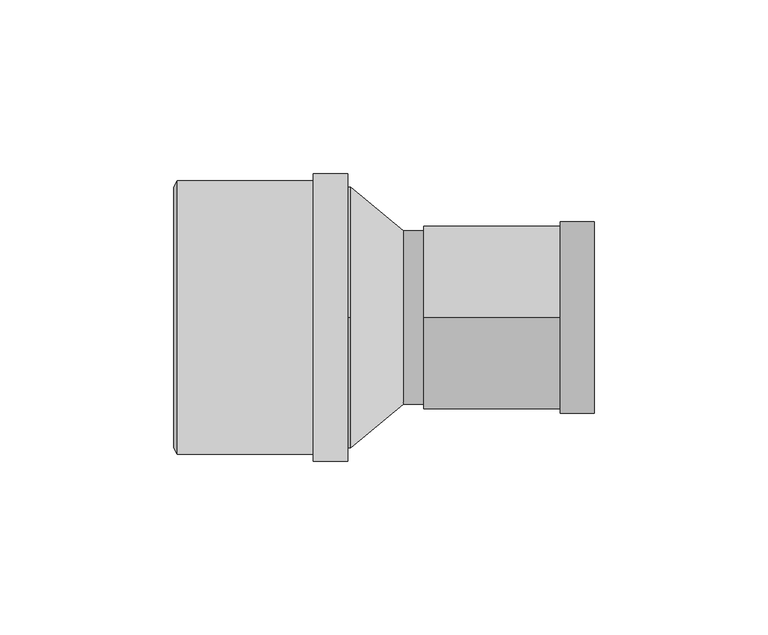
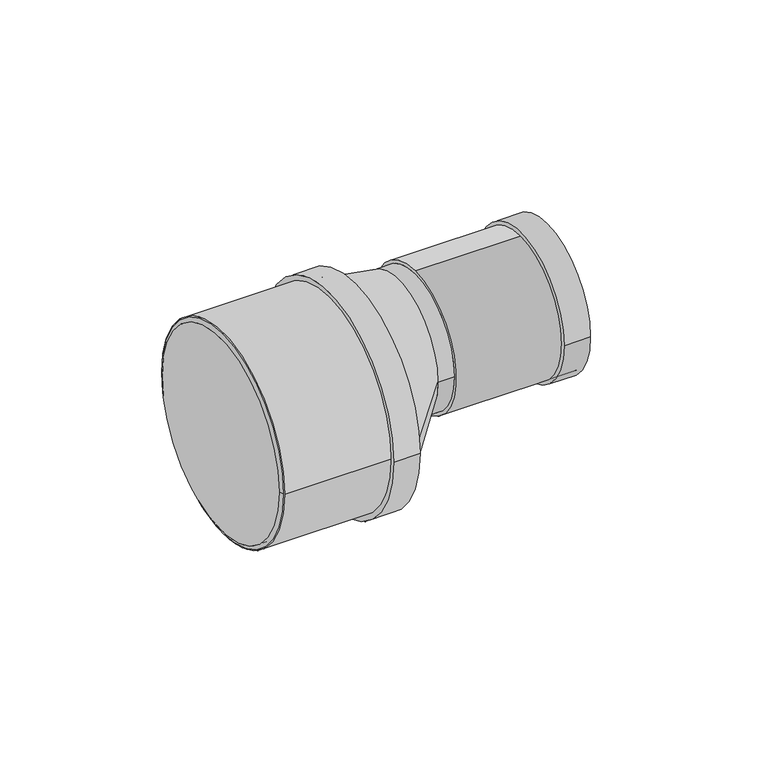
"""IFC4 building model written with IfcOpenShell, lengths in millimetres: pipe fitting geometry, Superdrain HTR-Reducer : Superdrain HTR-Reducer."""

from ifc_helpers import new_model, si_unit, point, frame, frame_2d, origin, origin_2d, place, context, project, spatial, polyline, circle_curve, trimmed, segment, composite_curve, outline, extrude, source, transform, mapped, element, save
from ifc_brep_helpers import plane_surface, revolved_surface, spline_surface, advanced_brep


def pipe_fitting_04622c49(model_context):
    return source(origin(), model_context, "Body", "SolidModel", [
        extrude(outline(composite_curve([segment(trimmed(circle_curve(frame_2d((0.0, 0.1450234)), 39.375), [point((39.375, 0.1450234))], [point((-39.375, 0.1450234))], False, "CARTESIAN"), True, "CONTINUOUS"), segment(trimmed(circle_curve(frame_2d((0.0, 0.1450234)), 39.375), [point((-39.375, 0.1450234))], [point((39.375, 0.1450234))], False, "CARTESIAN"), True, "CONTINUOUS")], self_intersect=False), holes=[composite_curve([segment(trimmed(circle_curve(frame_2d((0.0, 0.1450234)), 37.5), [point((37.5, 0.1450234))], [point((-37.5, 0.1450234))], True, "CARTESIAN"), True, "CONTINUOUS"), segment(trimmed(circle_curve(frame_2d((0.0, 0.1450234)), 37.5), [point((-37.5, 0.1450234))], [point((37.5, 0.1450234))], True, "CARTESIAN"), True, "CONTINUOUS")], self_intersect=False)]), frame((-50.0, 0.0, 0.0), z_axis=(1.0, 0.0, 0.0), x_axis=(0.0, 1.0, 0.0)), (0.0, 0.0, 1.0), 49.0),
        extrude(outline(composite_curve([segment(trimmed(circle_curve(frame_2d((0.0, 0.1450234)), 41.34375), [point((41.34375, 0.1450234))], [point((-41.34375, 0.1450234))], False, "CARTESIAN"), True, "CONTINUOUS"), segment(trimmed(circle_curve(frame_2d((0.0, 0.1450234)), 41.34375), [point((-41.34375, 0.1450234))], [point((41.34375, 0.1450234))], False, "CARTESIAN"), True, "CONTINUOUS")], self_intersect=False), holes=[composite_curve([segment(trimmed(circle_curve(frame_2d((0.0, 0.1450234)), 37.5), [point((37.5, 0.1450234))], [point((-37.5, 0.1450234))], True, "CARTESIAN"), True, "CONTINUOUS"), segment(trimmed(circle_curve(frame_2d((0.0, 0.1450234)), 37.5), [point((-37.5, 0.1450234))], [point((37.5, 0.1450234))], True, "CARTESIAN"), True, "CONTINUOUS")], self_intersect=False)]), frame((-10.8, 0.0, 0.0), z_axis=(1.0, 0.0, 0.0), x_axis=(0.0, 1.0, 0.0)), (0.0, 0.0, 1.0), 9.8),
        advanced_brep(
        [(-51.0, 37.5, 0.1450234), (-51.0, -37.5, 0.1450234), (-50.0, 39.375, 0.1450234), (-50.0, -39.375, 0.1450234)],
        [
            (0, 1, circle_curve(frame((-51.0, 0.0, 0.1450234), z_axis=(-1.0, 0.0, 0.0), x_axis=(0.0, 1.0, 0.0)), 37.5)),
            (1, 0, circle_curve(frame((-51.0, 0.0, 0.1450234), z_axis=(-1.0, 0.0, 0.0), x_axis=(0.0, -1.0, 0.0)), 37.5)),
            (2, 3, circle_curve(frame((-50.0, 0.0, 0.1450234), z_axis=(1.0, 0.0, 0.0), x_axis=(0.0, -1.0, 0.0)), 39.375)),
            (3, 2, circle_curve(frame((-50.0, 0.0, 0.1450234), z_axis=(1.0, 0.0, 0.0), x_axis=(0.0, 1.0, 0.0)), 39.375)),
            (3, 1),
            (0, 2),
        ],
        [
            plane_surface(frame((-51.0, 0.0, 0.1450234), z_axis=(-1.0, 0.0, 0.0), x_axis=(0.0, 0.0, -1.0))),
            plane_surface(frame((-50.0, 0.0, 0.1450234), z_axis=(1.0, 0.0, 0.0), x_axis=(0.0, 0.0, -1.0))),
            revolved_surface(polyline([(-51.0, 37.5, 0.1450234), (-50.0, 39.375, 0.1450234)]), (-71.0, 0.0, 0.1450234), (1.0, 0.0, 0.0)),
            revolved_surface(polyline([(-51.0, -37.5, 0.1450234), (-50.0, -39.375, 0.1450234)]), (-71.0, 0.0, 0.1450234), (1.0, 0.0, 0.0)),
        ],
        [
            (0, [[1, 2]]),
            (1, [[3, 4]]),
            (2, [[-4, 5, -1, 6]]),
            (3, [[-3, -6, -2, -5]]),
        ],
    ),
        advanced_brep(
        [(15.0, -25.0, 12.5), (15.0, 25.0, 12.5), (0.0, -37.5, 0.0), (0.0, 37.5, 0.0)],
        [
            (0, 1, circle_curve(frame((15.0, 0.0, 12.5), z_axis=(1.0, 0.0, 0.0), x_axis=(0.0, 1.0, 0.0)), 25.0)),
            (1, 0, circle_curve(frame((15.0, 0.0, 12.5), z_axis=(1.0, 0.0, 0.0), x_axis=(0.0, 1.0, 0.0)), 25.0)),
            (2, 3, circle_curve(frame((0.0, 0.0, 0.0), z_axis=(-1.0, 0.0, 0.0), x_axis=(0.0, 1.0, 0.0)), 37.5)),
            (3, 2, circle_curve(frame((0.0, 0.0, 0.0), z_axis=(-1.0, 0.0, 0.0), x_axis=(0.0, 1.0, 0.0)), 37.5)),
            (3, 1),
            (0, 2),
        ],
        [
            plane_surface(frame((15.0, 0.0, 12.5), z_axis=(1.0, 0.0, 0.0), x_axis=(0.0, 0.0, -1.0))),
            plane_surface(frame((0.0, 0.0, 0.0), z_axis=(-1.0, 0.0, 0.0), x_axis=(0.0, 0.0, -1.0))),
            spline_surface(2, 1, [[(0.0, -37.5, 0.0), (15.0, -25.0, 12.5)], [(0.0, -37.5, -37.5), (15.0, -25.0, -12.5)], [(0.0, 0.0, -37.5), (15.0, 0.0, -12.5)], [(0.0, 37.5, -37.5), (15.0, 25.0, -12.5)], [(0.0, 37.5, 0.0), (15.0, 25.0, 12.5)]], [3, 2, 3], [2, 2], [0.0, 1.0, 2.0], [0.0, 1.0], weights=[[1.0, 1.0], [0.7071067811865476, 0.7071067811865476], [1.0, 1.0], [0.7071067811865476, 0.7071067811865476], [1.0, 1.0]]),
            spline_surface(2, 1, [[(0.0, 37.5, 0.0), (15.0, 25.0, 12.5)], [(0.0, 37.5, 37.5), (15.0, 25.0, 37.5)], [(0.0, 0.0, 37.5), (15.0, 0.0, 37.5)], [(0.0, -37.5, 37.5), (15.0, -25.0, 37.5)], [(0.0, -37.5, 0.0), (15.0, -25.0, 12.5)]], [3, 2, 3], [2, 2], [0.0, 1.0, 2.0], [0.0, 1.0], weights=[[1.0, 1.0], [0.7071067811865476, 0.7071067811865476], [1.0, 1.0], [0.7071067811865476, 0.7071067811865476], [1.0, 1.0]]),
        ],
        [
            (0, [[1, 2]]),
            (1, [[3, 4]]),
            (2, [[-4, 5, -1, 6]]),
            (3, [[-3, -6, -2, -5]]),
        ],
    ),
        extrude(outline(composite_curve([segment(trimmed(circle_curve(frame_2d((0.0, 12.5)), 25.0), [point((-25.0, 12.5))], [point((25.0, 12.5))], False, "CARTESIAN"), True, "CONTINUOUS"), segment(trimmed(circle_curve(frame_2d((0.0, 12.5)), 25.0), [point((25.0, 12.5))], [point((-25.0, 12.5))], False, "CARTESIAN"), True, "CONTINUOUS")], self_intersect=False)), frame((15.0, 0.0, 0.0), z_axis=(1.0, 0.0, 0.0), x_axis=(0.0, 1.0, 0.0)), (0.0, 0.0, 1.0), 6.0),
        extrude(outline(composite_curve([segment(trimmed(circle_curve(frame_2d((0.0, 12.5)), 27.5625), [point((-27.5625, 12.5))], [point((27.5625, 12.5))], False, "CARTESIAN"), True, "CONTINUOUS"), segment(trimmed(circle_curve(frame_2d((0.0, 12.5)), 27.5625), [point((27.5625, 12.5))], [point((-27.5625, 12.5))], False, "CARTESIAN"), True, "CONTINUOUS")], self_intersect=False), holes=[composite_curve([segment(trimmed(circle_curve(frame_2d((0.0, 12.5)), 25.0), [point((25.0, 12.5))], [point((-25.0, 12.5))], True, "CARTESIAN"), True, "CONTINUOUS"), segment(trimmed(circle_curve(frame_2d((0.0, 12.5)), 25.0), [point((-25.0, 12.5))], [point((25.0, 12.5))], True, "CARTESIAN"), True, "CONTINUOUS")], self_intersect=False)]), frame((60.2, 0.0, 0.0), z_axis=(1.0, 0.0, 0.0), x_axis=(0.0, 1.0, 0.0)), (0.0, 0.0, 1.0), 9.8),
        extrude(outline(composite_curve([segment(trimmed(circle_curve(frame_2d((0.0, 12.5)), 26.25), [point((0.0, 38.75))], [point((0.0, -13.75))], False, "CARTESIAN"), True, "CONTINUOUS"), segment(trimmed(circle_curve(frame_2d((0.0, 12.5)), 26.25), [point((0.0, -13.75))], [point((0.0, 38.75))], False, "CARTESIAN"), True, "CONTINUOUS")], self_intersect=False), holes=[composite_curve([segment(trimmed(circle_curve(frame_2d((0.0, 12.5)), 25.0), [point((25.0, 12.5))], [point((-25.0, 12.5))], True, "CARTESIAN"), True, "CONTINUOUS"), segment(trimmed(circle_curve(frame_2d((0.0, 12.5)), 25.0), [point((-25.0, 12.5))], [point((25.0, 12.5))], True, "CARTESIAN"), True, "CONTINUOUS")], self_intersect=False)]), frame((21.0, 0.0, 0.0), z_axis=(1.0, 0.0, 0.0), x_axis=(0.0, 1.0, 0.0)), (0.0, 0.0, 1.0), 49.0),
        extrude(outline(composite_curve([segment(trimmed(circle_curve(origin_2d(), 37.5), [point((0.0, 37.5))], [point((0.0, -37.5))], False, "CARTESIAN"), True, "CONTINUOUS"), segment(trimmed(circle_curve(origin_2d(), 37.5), [point((0.0, -37.5))], [point((0.0, 37.5))], False, "CARTESIAN"), True, "CONTINUOUS")], self_intersect=False)), frame((-50.0, 0.0, 0.0), z_axis=(1.0, 0.0, 0.0), x_axis=(0.0, 1.0, 0.0)), (0.0, 0.0, 1.0), 50.0),
    ])


if __name__ == "__main__":
    model = new_model("IFC4")
    model_context = context("Model", 3, world=origin())
    ifc_project = project(units=[si_unit("LENGTHUNIT", "METRE", prefix="MILLI")], contexts=[model_context])
    site = spatial("IfcSite", under=ifc_project)
    building = spatial("IfcBuilding", under=site)
    placement = place(None, origin())
    pipe_fitting_shape = pipe_fitting_04622c49(model_context)
    element("IfcPipeFitting", 1, ObjectType="Superdrain HTR-Reducer : Superdrain HTR-Reducer", at=placement, inside=building, context=model_context, shape_type="MappedRepresentation", body=[
        mapped(pipe_fitting_shape, transform((0.0, 0.0, 0.0), x_axis=(1.0, 0.0, 0.0), y_axis=(0.0, 1.0, 0.0), z_axis=(0.0, 0.0, 1.0))),
    ])
    save(model, "model.ifc")
